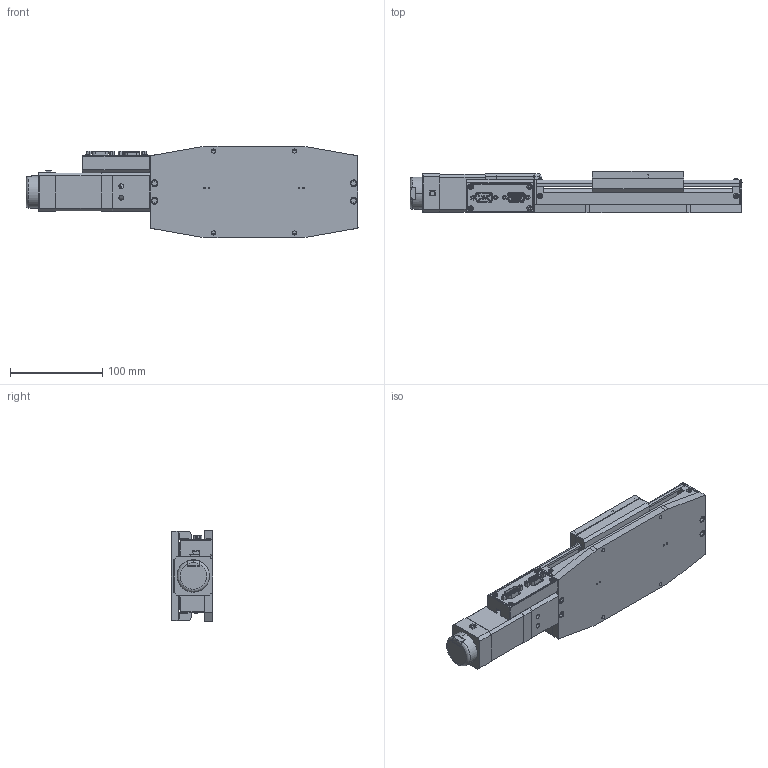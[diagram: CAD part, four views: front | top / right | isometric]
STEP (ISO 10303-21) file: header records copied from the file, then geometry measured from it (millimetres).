
FILE_DESCRIPTION (( 'STEP AP214' ), '1' );
FILE_NAME ('L3500.100-STC_v2_20180821.STEP', '2018-08-22T11:23:36', ( '' ), ( '' ), 'SwSTEP 2.0', 'SolidWorks 2017', '' );
FILE_SCHEMA (( 'AUTOMOTIVE_DESIGN' ));
Length unit declared in the file: millimetre
Products named in the file (1): L3500.100-STC_v2_20180821
Bounding box: 360.05 x 45.32 x 99.06 mm (x, y, z)
Volume: 721817.6 mm3; surface area: 276627.6 mm2
Topology: 58 solids, 58 shells, 2761 faces, 6966 edges, 4448 vertices
Faces by surface type: plane 1452, cylinder 1017, cone 187, bspline 75, torus 30
Entity records: 86241 total; most frequent: CARTESIAN_POINT 18371, DIRECTION 14126, ORIENTED_EDGE 13716, EDGE_CURVE 6858, AXIS2_PLACEMENT_3D 4860, VERTEX_POINT 4448, LINE 4406, VECTOR 4406
